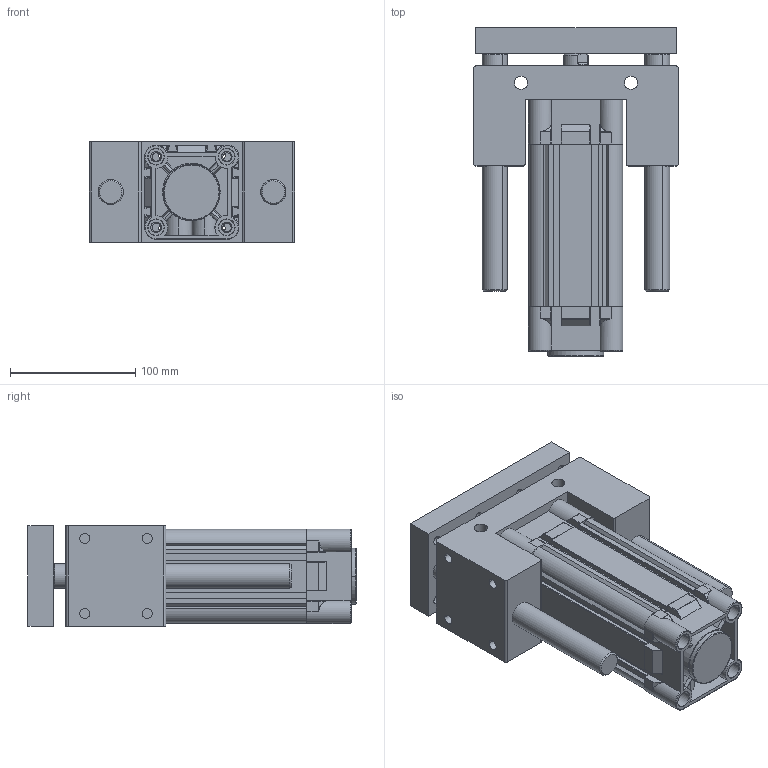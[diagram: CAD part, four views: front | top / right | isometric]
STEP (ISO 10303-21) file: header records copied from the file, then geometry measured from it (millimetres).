
FILE_DESCRIPTION (( 'STEP AP203' ), '1' );
FILE_NAME ('KDNC63X80-U-YATAK.STEP', '2016-09-08T05:56:14', ( 'user' ), ( '' ), 'SwSTEP 2.0', 'SolidWorks 2013', '' );
FILE_SCHEMA (( 'CONFIG_CONTROL_DESIGN' ));
Length unit declared in the file: millimetre
Products named in the file (9): DNC-U-YATAK 63; DNC-U-YATAK M尳 63X80; DNC-U-YATAK TABLA 63; KDNC 63x80 BORU; 烰 KAPAK  63; ORTA PÝSTON 63; ARKA KAPAK  63; KDNC63X80-U-YATAK; Piston Mili U YATAKLAMA 63x80
Assembly tree (9 placements, depth 2):
  KDNC63X80-U-YATAK
    DNC-U-YATAK 63
    DNC-U-YATAK M尳 63X80  x2
    DNC-U-YATAK TABLA 63
    KDNC 63x80 BORU
    烰 KAPAK  63
    ORTA PÝSTON 63
    Piston Mili U YATAKLAMA 63x80
    ARKA KAPAK  63
Bounding box: 164 x 262.5 x 80.5 mm (x, y, z)
Volume: 1586104 mm3; surface area: 386127.2 mm2
Topology: 10 solids, 10 shells, 959 faces, 2448 edges, 1570 vertices
Faces by surface type: cylinder 452, plane 345, cone 84, bspline 76, torus 2
Entity records: 38084 total; most frequent: CARTESIAN_POINT 14369, ORIENTED_EDGE 4860, DIRECTION 4612, EDGE_CURVE 2430, AXIS2_PLACEMENT_3D 1741, VERTEX_POINT 1562, VECTOR 1130, LINE 1130
